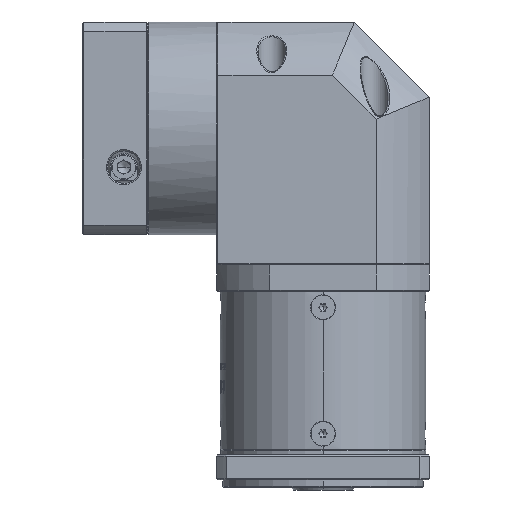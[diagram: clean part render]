
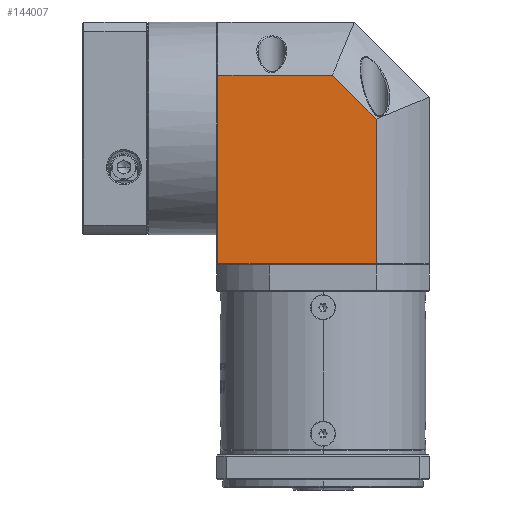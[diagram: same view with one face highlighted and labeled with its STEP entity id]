
A CAD part, left-side view. The second image highlights one B-rep face of the part: STEP entity #144007.
In plain terms, the highlighted planar face has unit normal (-1, 0, 0).
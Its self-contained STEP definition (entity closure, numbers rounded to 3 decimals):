
#9698 = LINE ( 'NONE', #122773, #80131 ) ;
#11709 = DIRECTION ( 'NONE',  ( 1., 0., 0. ) ) ;
#11962 = VERTEX_POINT ( 'NONE', #78686 ) ;
#23550 = CARTESIAN_POINT ( 'NONE',  ( -125.541, 75.065, 23.902 ) ) ;
#25368 = CARTESIAN_POINT ( 'NONE',  ( -125.541, 75.065, 99.115 ) ) ;
#34946 = EDGE_CURVE ( 'NONE', #11962, #159666, #85356, .T. ) ;
#36561 = ORIENTED_EDGE ( 'NONE', *, *, #34946, .F. ) ;
#43674 = DIRECTION ( 'NONE',  ( 0., -1., 0. ) ) ;
#44069 = ORIENTED_EDGE ( 'NONE', *, *, #87509, .F. ) ;
#47702 = PLANE ( 'NONE',  #119230 ) ;
#48417 = ORIENTED_EDGE ( 'NONE', *, *, #150568, .F. ) ;
#55214 = DIRECTION ( 'NONE',  ( 0., 0., -1. ) ) ;
#56111 = LINE ( 'NONE', #78524, #126387 ) ;
#64900 = DIRECTION ( 'NONE',  ( 0., -0.707, -0.707 ) ) ;
#69247 = EDGE_LOOP ( 'NONE', ( #170305, #44069, #36561, #118607, #48417 ) ) ;
#74215 = VERTEX_POINT ( 'NONE', #23550 ) ;
#78524 = CARTESIAN_POINT ( 'NONE',  ( -125.541, 75.065, 120.402 ) ) ;
#78686 = CARTESIAN_POINT ( 'NONE',  ( -125.541, 29.382, 99.115 ) ) ;
#80079 = EDGE_CURVE ( 'NONE', #74215, #96903, #9698, .T. ) ;
#80131 = VECTOR ( 'NONE', #43674, 1000. ) ;
#82261 = VECTOR ( 'NONE', #93388, 1000. ) ;
#85356 = LINE ( 'NONE', #157229, #120507 ) ;
#87509 = EDGE_CURVE ( 'NONE', #159666, #96903, #133525, .T. ) ;
#90938 = CARTESIAN_POINT ( 'NONE',  ( -125.541, 75.565, 120.402 ) ) ;
#91172 = DIRECTION ( 'NONE',  ( 0., 0., 1. ) ) ;
#92725 = CARTESIAN_POINT ( 'NONE',  ( -125.541, 11.852, 123.902 ) ) ;
#93388 = DIRECTION ( 'NONE',  ( 0., -1., 0. ) ) ;
#94861 = CARTESIAN_POINT ( 'NONE',  ( -125.541, 11.852, 81.585 ) ) ;
#96903 = VERTEX_POINT ( 'NONE', #105508 ) ;
#103650 = EDGE_CURVE ( 'NONE', #132760, #11962, #121555, .T. ) ;
#104171 = DIRECTION ( 'NONE',  ( 0., 1., 0. ) ) ;
#105508 = CARTESIAN_POINT ( 'NONE',  ( -125.541, 11.852, 23.902 ) ) ;
#118607 = ORIENTED_EDGE ( 'NONE', *, *, #103650, .F. ) ;
#119230 = AXIS2_PLACEMENT_3D ( 'NONE', #90938, #11709, #104171 ) ;
#120507 = VECTOR ( 'NONE', #64900, 1000. ) ;
#121555 = LINE ( 'NONE', #159239, #82261 ) ;
#122773 = CARTESIAN_POINT ( 'NONE',  ( -125.541, 75.565, 23.902 ) ) ;
#126387 = VECTOR ( 'NONE', #91172, 1000. ) ;
#132760 = VERTEX_POINT ( 'NONE', #25368 ) ;
#133525 = LINE ( 'NONE', #92725, #164555 ) ;
#144007 = ADVANCED_FACE ( 'NONE', ( #157793 ), #47702, .F. ) ;
#150568 = EDGE_CURVE ( 'NONE', #74215, #132760, #56111, .T. ) ;
#157229 = CARTESIAN_POINT ( 'NONE',  ( -125.541, 29.382, 99.115 ) ) ;
#157793 = FACE_OUTER_BOUND ( 'NONE', #69247, .T. ) ;
#159239 = CARTESIAN_POINT ( 'NONE',  ( -125.541, 75.565, 99.115 ) ) ;
#159666 = VERTEX_POINT ( 'NONE', #94861 ) ;
#164555 = VECTOR ( 'NONE', #55214, 1000. ) ;
#170305 = ORIENTED_EDGE ( 'NONE', *, *, #80079, .T. ) ;
